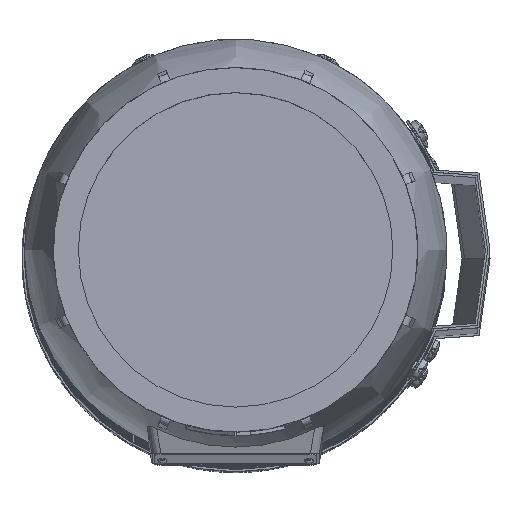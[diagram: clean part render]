
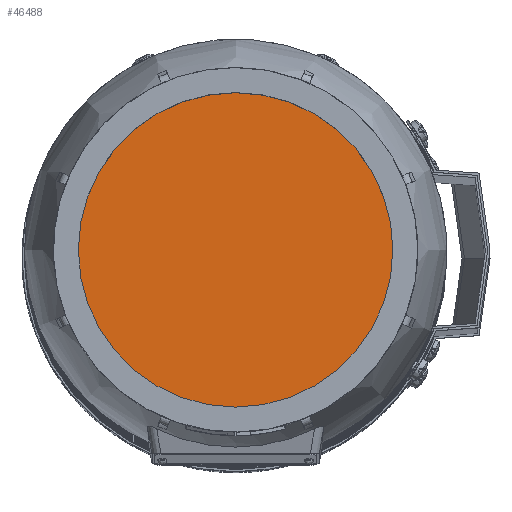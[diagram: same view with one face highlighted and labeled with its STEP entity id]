
A CAD part, top view. The second image highlights one B-rep face of the part: STEP entity #46488.
In plain terms, the highlighted planar face has unit normal (0, 0, 1) as drawn and (0, 1, 0) by its records, which use the part's own axes.
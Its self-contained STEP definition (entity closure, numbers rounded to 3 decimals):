
#9821=ORIENTED_EDGE('',*,*,#23877,.F.);
#23877=EDGE_CURVE('',#30905,#30905,#35635,.T.);
#30905=VERTEX_POINT('',#67117);
#35635=CIRCLE('',#49027,67.736);
#37758=EDGE_LOOP('',(#9821));
#41112=FACE_BOUND('',#37758,.T.);
#44484=PLANE('',#49026);
#46488=ADVANCED_FACE('',(#41112),#44484,.F.);
#49026=AXIS2_PLACEMENT_3D('',#67115,#53624,#53625);
#49027=AXIS2_PLACEMENT_3D('',#67116,#53626,#53627);
#53624=DIRECTION('',(0.,-1.,0.));
#53625=DIRECTION('',(0.,0.,-1.));
#53626=DIRECTION('',(0.,-1.,0.));
#53627=DIRECTION('',(0.,0.,-1.));
#67115=CARTESIAN_POINT('',(0.,154.,0.));
#67116=CARTESIAN_POINT('',(0.,154.,0.));
#67117=CARTESIAN_POINT('',(0.,154.,-67.736));
